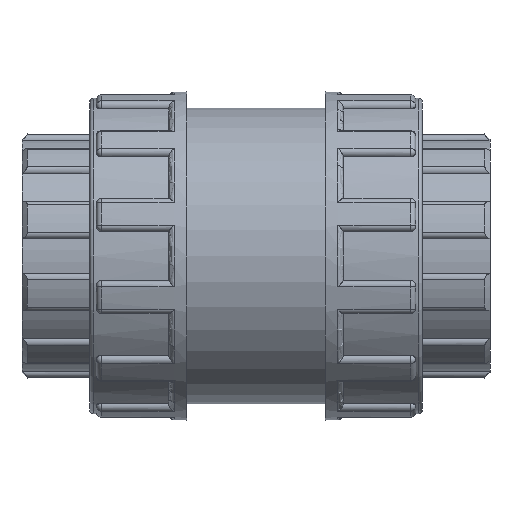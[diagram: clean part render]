
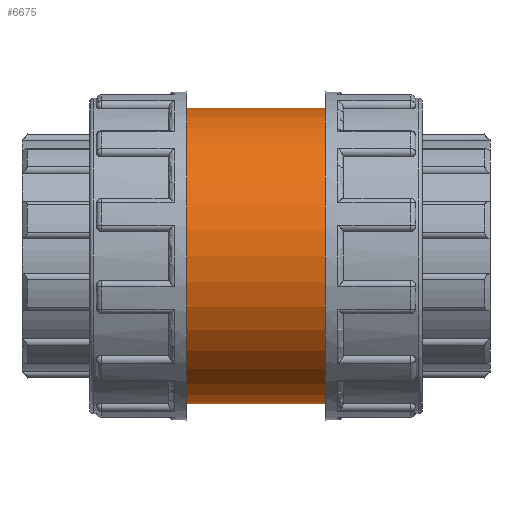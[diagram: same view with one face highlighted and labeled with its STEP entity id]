
A CAD part, front view. The second image highlights one B-rep face of the part: STEP entity #6675.
In plain terms, the highlighted cylindrical face has radius 93.15 mm (diameter 186.3 mm), a full revolution.
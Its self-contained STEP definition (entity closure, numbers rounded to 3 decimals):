
#185=FACE_BOUND('',#1099,.T.);
#186=FACE_BOUND('',#1100,.T.);
#670=FACE_OUTER_BOUND('',#1098,.T.);
#1098=EDGE_LOOP('',(#6073));
#1099=EDGE_LOOP('',(#6074));
#1100=EDGE_LOOP('',(#6075));
#1149=B_SPLINE_CURVE_WITH_KNOTS('',3,(#10735,#10736,#10737,#10738,#10739,
#10740,#10741,#10742,#10743,#10744,#10745,#10746,#10747,#10748,#10749,#10750,
#10751,#10752,#10753,#10754,#10755,#10756,#10757,#10758,#10759,#10760,#10761,
#10762,#10763,#10764,#10765,#10766,#10767,#10768,#10769,#10770,#10771,#10772,
#10773,#10774,#10775,#10776,#10777,#10778,#10779,#10780,#10781,#10782,#10783,
#10784,#10785,#10786,#10787,#10788,#10789,#10790,#10791,#10792,#10793,#10794,
#10795,#10796,#10797,#10798,#10799,#10800),.UNSPECIFIED.,.T.,.F.,(4,2,2,
2,2,2,2,2,2,2,2,2,2,2,2,2,2,2,2,2,2,2,2,2,2,2,2,2,2,2,2,2,4),(0.,0.59,
1.18,1.77,2.359,2.949,3.539,
4.128,4.718,5.307,5.897,6.486,
7.076,7.666,8.256,8.846,9.435,
10.025,10.615,11.205,11.795,12.384,
12.974,13.564,14.153,14.743,15.332,
15.922,16.512,17.101,17.691,18.281,
18.871),.UNSPECIFIED.);
#2472=CIRCLE('',#7578,93.15);
#2473=CIRCLE('',#7580,93.15);
#2638=VERTEX_POINT('',#10734);
#3083=VERTEX_POINT('',#13385);
#3084=VERTEX_POINT('',#13388);
#3349=EDGE_CURVE('',#2638,#2638,#1149,.T.);
#4082=EDGE_CURVE('',#3083,#3083,#2472,.T.);
#4083=EDGE_CURVE('',#3084,#3084,#2473,.T.);
#6073=ORIENTED_EDGE('',*,*,#4082,.T.);
#6074=ORIENTED_EDGE('',*,*,#3349,.T.);
#6075=ORIENTED_EDGE('',*,*,#4083,.F.);
#6267=CYLINDRICAL_SURFACE('',#7579,93.15);
#6675=ADVANCED_FACE('',(#670,#185,#186),#6267,.T.);
#7578=AXIS2_PLACEMENT_3D('',#13386,#9749,#9750);
#7579=AXIS2_PLACEMENT_3D('',#13387,#9751,#9752);
#7580=AXIS2_PLACEMENT_3D('',#13389,#9753,#9754);
#9749=DIRECTION('center_axis',(1.,0.,0.));
#9750=DIRECTION('ref_axis',(0.,0.,-1.));
#9751=DIRECTION('center_axis',(1.,0.,0.));
#9752=DIRECTION('ref_axis',(0.,1.,0.));
#9753=DIRECTION('center_axis',(1.,0.,0.));
#9754=DIRECTION('ref_axis',(0.,0.,-1.));
#10734=CARTESIAN_POINT('',(0.,87.823,-31.05));
#10735=CARTESIAN_POINT('Ctrl Pts',(0.,87.823,
-31.05));
#10736=CARTESIAN_POINT('Ctrl Pts',(1.966,87.823,-31.05));
#10737=CARTESIAN_POINT('Ctrl Pts',(3.994,87.891,-30.86));
#10738=CARTESIAN_POINT('Ctrl Pts',(8.018,88.165,-30.067));
#10739=CARTESIAN_POINT('Ctrl Pts',(10.014,88.371,-29.464));
#10740=CARTESIAN_POINT('Ctrl Pts',(13.834,88.885,-27.875));
#10741=CARTESIAN_POINT('Ctrl Pts',(15.661,89.193,-26.888));
#10742=CARTESIAN_POINT('Ctrl Pts',(19.037,89.847,-24.614));
#10743=CARTESIAN_POINT('Ctrl Pts',(20.585,90.193,-23.326));
#10744=CARTESIAN_POINT('Ctrl Pts',(23.325,90.858,-20.586));
#10745=CARTESIAN_POINT('Ctrl Pts',(24.613,91.2,-19.038));
#10746=CARTESIAN_POINT('Ctrl Pts',(26.888,91.84,-15.662));
#10747=CARTESIAN_POINT('Ctrl Pts',(27.875,92.137,-13.834));
#10748=CARTESIAN_POINT('Ctrl Pts',(29.464,92.63,-10.013));
#10749=CARTESIAN_POINT('Ctrl Pts',(30.067,92.826,-8.017));
#10750=CARTESIAN_POINT('Ctrl Pts',(30.86,93.086,-3.993));
#10751=CARTESIAN_POINT('Ctrl Pts',(31.05,93.15,-1.965));
#10752=CARTESIAN_POINT('Ctrl Pts',(31.05,93.15,1.965));
#10753=CARTESIAN_POINT('Ctrl Pts',(30.86,93.086,3.993));
#10754=CARTESIAN_POINT('Ctrl Pts',(30.067,92.826,8.017));
#10755=CARTESIAN_POINT('Ctrl Pts',(29.464,92.63,10.013));
#10756=CARTESIAN_POINT('Ctrl Pts',(27.875,92.137,13.834));
#10757=CARTESIAN_POINT('Ctrl Pts',(26.888,91.84,15.662));
#10758=CARTESIAN_POINT('Ctrl Pts',(24.613,91.2,19.038));
#10759=CARTESIAN_POINT('Ctrl Pts',(23.325,90.858,20.586));
#10760=CARTESIAN_POINT('Ctrl Pts',(20.585,90.193,23.326));
#10761=CARTESIAN_POINT('Ctrl Pts',(19.037,89.847,24.614));
#10762=CARTESIAN_POINT('Ctrl Pts',(15.661,89.193,26.888));
#10763=CARTESIAN_POINT('Ctrl Pts',(13.834,88.885,27.875));
#10764=CARTESIAN_POINT('Ctrl Pts',(10.014,88.371,29.464));
#10765=CARTESIAN_POINT('Ctrl Pts',(8.018,88.165,30.067));
#10766=CARTESIAN_POINT('Ctrl Pts',(3.994,87.891,30.86));
#10767=CARTESIAN_POINT('Ctrl Pts',(1.966,87.823,31.05));
#10768=CARTESIAN_POINT('Ctrl Pts',(-1.966,87.823,31.05));
#10769=CARTESIAN_POINT('Ctrl Pts',(-3.994,87.891,30.86));
#10770=CARTESIAN_POINT('Ctrl Pts',(-8.018,88.165,30.067));
#10771=CARTESIAN_POINT('Ctrl Pts',(-10.014,88.371,29.464));
#10772=CARTESIAN_POINT('Ctrl Pts',(-13.834,88.885,27.875));
#10773=CARTESIAN_POINT('Ctrl Pts',(-15.661,89.193,26.888));
#10774=CARTESIAN_POINT('Ctrl Pts',(-19.037,89.847,24.614));
#10775=CARTESIAN_POINT('Ctrl Pts',(-20.585,90.193,23.326));
#10776=CARTESIAN_POINT('Ctrl Pts',(-23.325,90.858,20.586));
#10777=CARTESIAN_POINT('Ctrl Pts',(-24.613,91.2,19.038));
#10778=CARTESIAN_POINT('Ctrl Pts',(-26.888,91.84,15.662));
#10779=CARTESIAN_POINT('Ctrl Pts',(-27.875,92.137,13.834));
#10780=CARTESIAN_POINT('Ctrl Pts',(-29.464,92.63,10.013));
#10781=CARTESIAN_POINT('Ctrl Pts',(-30.067,92.826,8.017));
#10782=CARTESIAN_POINT('Ctrl Pts',(-30.86,93.086,3.993));
#10783=CARTESIAN_POINT('Ctrl Pts',(-31.05,93.15,1.965));
#10784=CARTESIAN_POINT('Ctrl Pts',(-31.05,93.15,-1.965));
#10785=CARTESIAN_POINT('Ctrl Pts',(-30.86,93.086,-3.993));
#10786=CARTESIAN_POINT('Ctrl Pts',(-30.067,92.826,-8.017));
#10787=CARTESIAN_POINT('Ctrl Pts',(-29.464,92.63,-10.013));
#10788=CARTESIAN_POINT('Ctrl Pts',(-27.875,92.137,-13.834));
#10789=CARTESIAN_POINT('Ctrl Pts',(-26.888,91.84,-15.662));
#10790=CARTESIAN_POINT('Ctrl Pts',(-24.613,91.2,-19.038));
#10791=CARTESIAN_POINT('Ctrl Pts',(-23.325,90.858,-20.586));
#10792=CARTESIAN_POINT('Ctrl Pts',(-20.585,90.193,-23.326));
#10793=CARTESIAN_POINT('Ctrl Pts',(-19.037,89.847,-24.614));
#10794=CARTESIAN_POINT('Ctrl Pts',(-15.661,89.193,-26.888));
#10795=CARTESIAN_POINT('Ctrl Pts',(-13.834,88.885,-27.875));
#10796=CARTESIAN_POINT('Ctrl Pts',(-10.014,88.371,-29.464));
#10797=CARTESIAN_POINT('Ctrl Pts',(-8.018,88.165,-30.067));
#10798=CARTESIAN_POINT('Ctrl Pts',(-3.994,87.891,-30.86));
#10799=CARTESIAN_POINT('Ctrl Pts',(-1.966,87.823,-31.05));
#10800=CARTESIAN_POINT('Ctrl Pts',(0.,87.823,
-31.05));
#13385=CARTESIAN_POINT('',(-43.8,93.15,0.));
#13386=CARTESIAN_POINT('Origin',(-43.8,0.,0.));
#13387=CARTESIAN_POINT('Origin',(0.,0.,0.));
#13388=CARTESIAN_POINT('',(43.8,93.15,0.));
#13389=CARTESIAN_POINT('Origin',(43.8,0.,0.));
